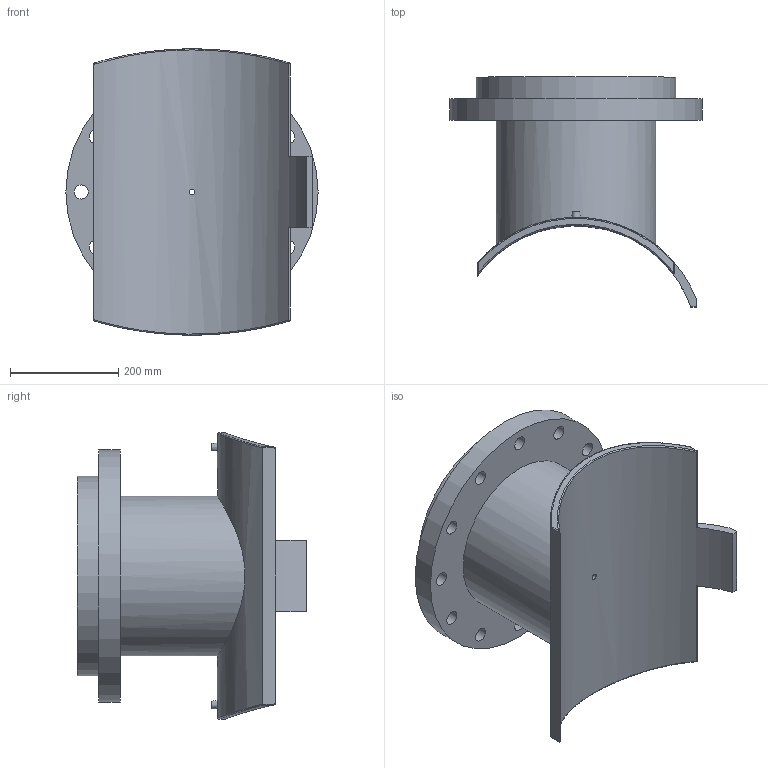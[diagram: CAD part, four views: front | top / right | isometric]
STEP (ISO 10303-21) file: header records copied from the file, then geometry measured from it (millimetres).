
FILE_DESCRIPTION(/* description */ ('PLASSON FLANGED BRANCH SADDLE 450X300'),/* implementation_level */ '2;1');
FILE_NAME(/* name */ 'C:\Dropbox\KIMPROJECTS-Inventor 2019\99-16-3568-Processing\ElectroFusion Fittings\495904_495903\stp\495903450300T.stp',/* time_stamp */ '2024-04-03T21:04:32+02:00',/* author */ ('KIM'),/* organization */ (''),/* preprocessor_version */ 'ST-DEVELOPER v17.2',/* originating_system */ 'Autodesk Inventor 2019',/* authorisation */ '');
FILE_SCHEMA (('AUTOMOTIVE_DESIGN { 1 0 10303 214 3 1 1 }'));
Length unit declared in the file: millimetre
Products named in the file (1): 495903450300T
Bounding box: 467 x 425.66 x 529.93 mm (x, y, z)
Volume: 13540544.4 mm3; surface area: 1249685.4 mm2
Topology: 1 solids, 1 shells, 62 faces, 163 edges, 126 vertices
Faces by surface type: cylinder 35, plane 17, sphere 4, bspline 4, cone 2
Full cylindrical faces by diameter (mm): 4 x2, 10 x2, 10.4 x1, 16 x1, 26 x12, 257 x1, 296 x1, 370 x1, 467 x1
Entity records: 2607 total; most frequent: CARTESIAN_POINT 979, DIRECTION 325, ORIENTED_EDGE 298, EDGE_CURVE 149, AXIS2_PLACEMENT_3D 137, VERTEX_POINT 100, EDGE_LOOP 99, CIRCLE 78
